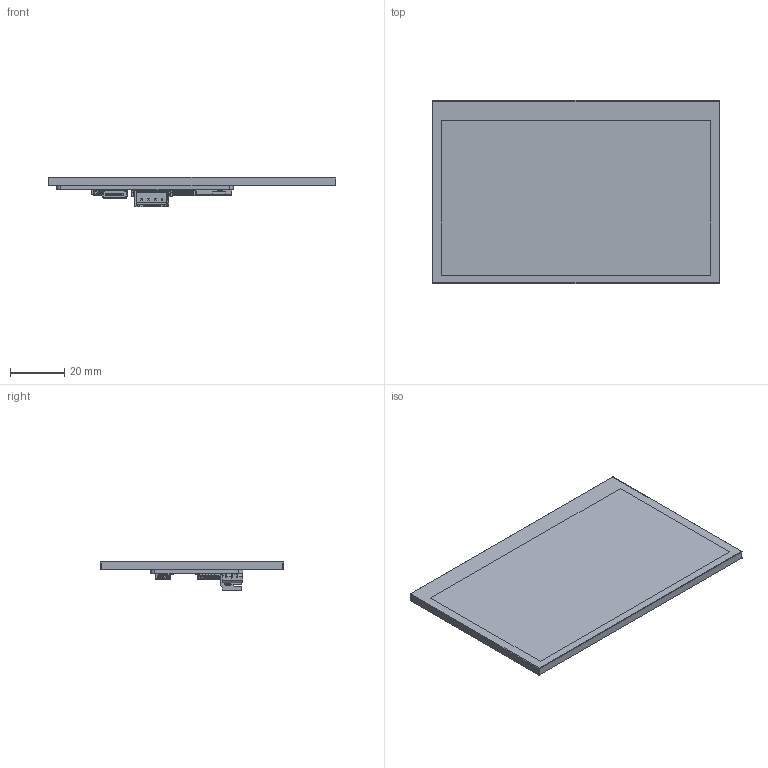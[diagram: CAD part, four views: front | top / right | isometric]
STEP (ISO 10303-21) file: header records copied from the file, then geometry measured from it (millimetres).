
FILE_DESCRIPTION(/* description */ (''),/* implementation_level */ '2;1');
FILE_NAME(/* name */ 'C:\Users\zhaoyunqi\Desktop\方案\终版\7.MS43\MS43-STEP模型.stp',/* time_stamp */ '2025-12-27T15:25:59+08:00',/* author */ ('zhaoyunqi'),/* organization */ (''),/* preprocessor_version */ 'ST-DEVELOPER v18',/* originating_system */ 'Autodesk Inventor 2020',/* authorisation */ '');
FILE_SCHEMA (('AUTOMOTIVE_DESIGN { 1 0 10303 214 3 1 1 }'));
Products named in the file (12): 模型; FPC-0.50-6P; FPC-SMD_P0.50-6P_LCS-SJ-H2.0~FPC-SMD_P0.50-6P_LCS-SJ-H2.0~GGM5; FPC-0.50-40P; FPC-SMD_40P-P0.50_HC-FPC-0.5-40P-CSH20~FPC-SMD_40P-P0.50_HC-FPC-0.5-4
0P-CSH20~GGM5; TF; SIM-SMD_TF110-AG1-004~SIM-SMD_TF110-AG1-004~GGM5; TYPE-C-16P; USB_TYPE-C-16P~USB-C_SMD-TYPE-C-31-M-12~GGM5; XH_4P-P2.50; CONN-SMD_4P-P2.50-WT~CONN-SMD_4P-P2.50-WT~GGM5; PCB
Assembly tree (11 placements, depth 3):
  模型
    FPC-0.50-6P
      FPC-SMD_P0.50-6P_LCS-SJ-H2.0~FPC-SMD_P0.50-6P_LCS-SJ-H2.0~GGM5
    FPC-0.50-40P
      FPC-SMD_40P-P0.50_HC-FPC-0.5-40P-CSH20~FPC-SMD_40P-P0.50_HC-FPC-0.5-4
0P-CSH20~GGM5
    TF
      SIM-SMD_TF110-AG1-004~SIM-SMD_TF110-AG1-004~GGM5
    TYPE-C-16P
      USB_TYPE-C-16P~USB-C_SMD-TYPE-C-31-M-12~GGM5
    XH_4P-P2.50
      CONN-SMD_4P-P2.50-WT~CONN-SMD_4P-P2.50-WT~GGM5
    PCB
Bounding box: 105.6 x 67.3 x 10.7 mm (x, y, z)
Volume: 25687.6 mm3; surface area: 36158.8 mm2
Topology: 67 solids, 67 shells, 4488 faces, 12274 edges, 8006 vertices
Faces by surface type: plane 3228, bspline 578, cylinder 575, torus 102, sphere 5
Full cylindrical faces by diameter (mm): 0.511 x2, 0.731 x1, 0.8 x2
Entity records: 152491 total; most frequent: CARTESIAN_POINT 35417, ORIENTED_EDGE 24546, DIRECTION 21154, EDGE_CURVE 12273, LINE 9844, VECTOR 9844, VERTEX_POINT 8006, AXIS2_PLACEMENT_3D 5655
